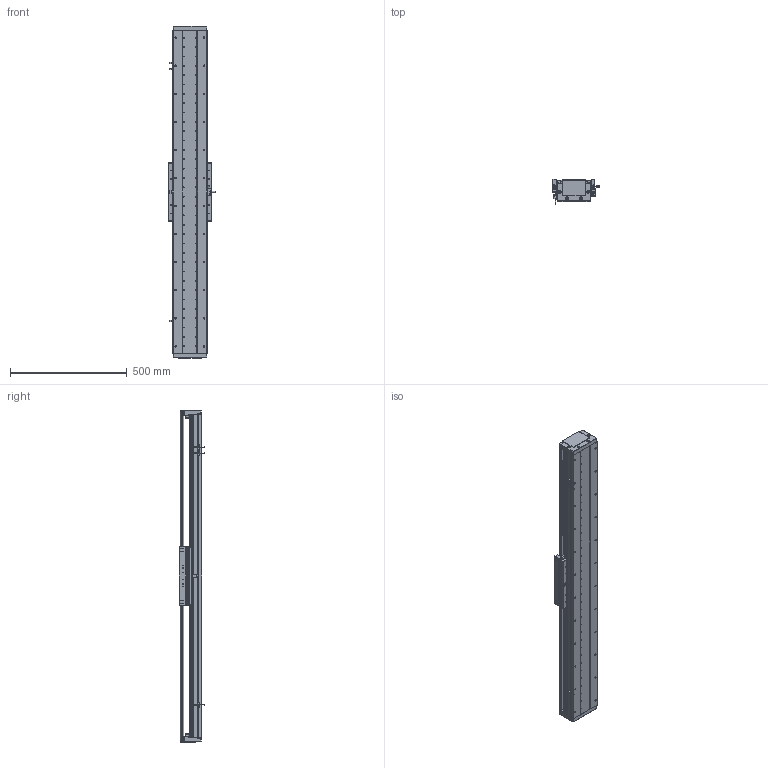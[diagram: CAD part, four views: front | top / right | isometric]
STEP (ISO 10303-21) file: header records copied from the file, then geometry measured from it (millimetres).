
FILE_DESCRIPTION (( 'STEP AP214' ), '1' );
FILE_NAME ('DA-C145-C3-T1080-C010-0.2 眻盄萇儂.STEP', '2025-08-14T01:20:32', ( '' ), ( '' ), 'SwSTEP 2.0', 'SolidWorks 2019', '' );
FILE_SCHEMA (( 'AUTOMOTIVE_DESIGN' ));
Length unit declared in the file: millimetre
Products named in the file (29): TAY01-M8; 葩璃 DMA-010-0.2 黍杅芛^DA-C145-C3-T-C010-0.2; 复件 纯铜油杯 6x6mm^CU145-W 滚珠滑台; 葩璃 CKM03-W060-C1C2-TP-0.2^DA-C145-C3-T-C010-0.2; IU-CU145-L-00 菁釱(L1380); 葩璃 DA95-GT-T-00^IU-CU145-L 菁釱絳寢; 复件 DA145-C3-YB-A-00 压板A^CU145-W 滚珠滑台; 葩璃 鞠褒情蹟譫 M3^DA-C145-C3-T-C010-0.2; CU145-W 幗紩賑怢; 复件 DA145-GYP-00 光电感应片^DA-C145-C3-T-C010-0.2; 复件 DA95-HK-GT-00 滑块钢轨^CU145-W-00 一体化滑动台板; 葩璃 DA145-T-003-00 裔啣^DA-C145-C3-T-C010-0.2; 葩璃 DA145-C3-DP-A-00 菜えA^CU145-W 幗紩賑怢; IU-CU145-L 菁釱絳寢; 葩璃 DA95-HXJ-00 遣喳砎蝶^DA-C145-C3-T-C010-0.2; 复件 DA145-C3-YB-B-00 压板B^CU145-W 滚珠滑台; 葩璃 DA145-DG-H-N-00 傷裔^DA-C145-C3-T-C010-0.2; 复件 DA145-C3-DK-00 挡块^CU145-W 滚珠滑台; 葩璃 PM-T45^DA-C145-C3-T-C010-0.2; 复件 DA95-DB-00  挡板^CU145-W 滚珠滑台; 复件 内六角平端紧定螺钉 GB.T77-2000 M5×10^CU145-W 滚珠滑台; DA-C145-C3-T1080-C010-0.2 眻盄萇儂; 葩璃 XD-U-02L 棠掑喜^DA-C145-C3-T-C010-0.2; 葩璃 CKMA01-W060-TRL^DA-C145-C3-T-C010-0.2; CU145-W-00 珨极趙賑雄怢啣; 复件 半圆头内六角螺钉 M3×6^CU145-W 滚珠滑台; 66245-CU145-HT-W-00 賑雄怢啣(3D芞祧)(00); 复件 DA95-MFP-01 密封片^CU145-W 滚珠滑台; 葩璃 DA145-C3-DP-B-00 菜えB^CU145-W 幗紩賑怢
Assembly tree (98 placements, depth 4):
  DA-C145-C3-T1080-C010-0.2 眻盄萇儂
    IU-CU145-L 菁釱絳寢
      IU-CU145-L-00 菁釱(L1380)
      葩璃 DA95-GT-T-00^IU-CU145-L 菁釱絳寢  x4
    CU145-W 幗紩賑怢
      CU145-W-00 珨极趙賑雄怢啣
        66245-CU145-HT-W-00 賑雄怢啣(3D芞祧)(00)
        复件 DA95-HK-GT-00 滑块钢轨^CU145-W-00 一体化滑动台板  x8
      复件 DA95-MFP-01 密封片^CU145-W 滚珠滑台  x8
      复件 DA95-DB-00  挡板^CU145-W 滚珠滑台  x8
      复件 内六角平端紧定螺钉 GB.T77-2000 M5×10^CU145-W 滚珠滑台  x4
      复件 纯铜油杯 6x6mm^CU145-W 滚珠滑台  x4
      复件 半圆头内六角螺钉 M3×6^CU145-W 滚珠滑台  x16
      复件 DA145-C3-DK-00 挡块^CU145-W 滚珠滑台  x4
      葩璃 DA145-C3-DP-B-00 菜えB^CU145-W 幗紩賑怢  x2
      复件 DA145-C3-YB-B-00 压板B^CU145-W 滚珠滑台  x2
      葩璃 DA145-C3-DP-A-00 菜えA^CU145-W 幗紩賑怢  x3
      复件 DA145-C3-YB-A-00 压板A^CU145-W 滚珠滑台  x3
      TAY01-M8  x4
    葩璃 CKMA01-W060-TRL^DA-C145-C3-T-C010-0.2
    葩璃 PM-T45^DA-C145-C3-T-C010-0.2  x3
    葩璃 XD-U-02L 棠掑喜^DA-C145-C3-T-C010-0.2
    葩璃 DA145-DG-H-N-00 傷裔^DA-C145-C3-T-C010-0.2  x2
    葩璃 DA145-T-003-00 裔啣^DA-C145-C3-T-C010-0.2
    葩璃 DA95-HXJ-00 遣喳砎蝶^DA-C145-C3-T-C010-0.2  x4
    复件 DA145-GYP-00 光电感应片^DA-C145-C3-T-C010-0.2
    葩璃 DMA-010-0.2 黍杅芛^DA-C145-C3-T-C010-0.2
    葩璃 CKM03-W060-C1C2-TP-0.2^DA-C145-C3-T-C010-0.2
    葩璃 鞠褒情蹟譫 M3^DA-C145-C3-T-C010-0.2  x8
Bounding box: 203.5 x 108.45 x 1420 mm (x, y, z)
Volume: 8617444.4 mm3; surface area: 2593036.6 mm2
Topology: 95 solids, 127 shells, 4098 faces, 11127 edges, 6896 vertices
Faces by surface type: cylinder 1801, plane 1581, cone 626, torus 86, sphere 4
Entity records: 96701 total; most frequent: CARTESIAN_POINT 26508, ORIENTED_EDGE 14252, DIRECTION 14221, EDGE_CURVE 7126, AXIS2_PLACEMENT_3D 5298, VERTEX_POINT 4585, LINE 3625, VECTOR 3625
